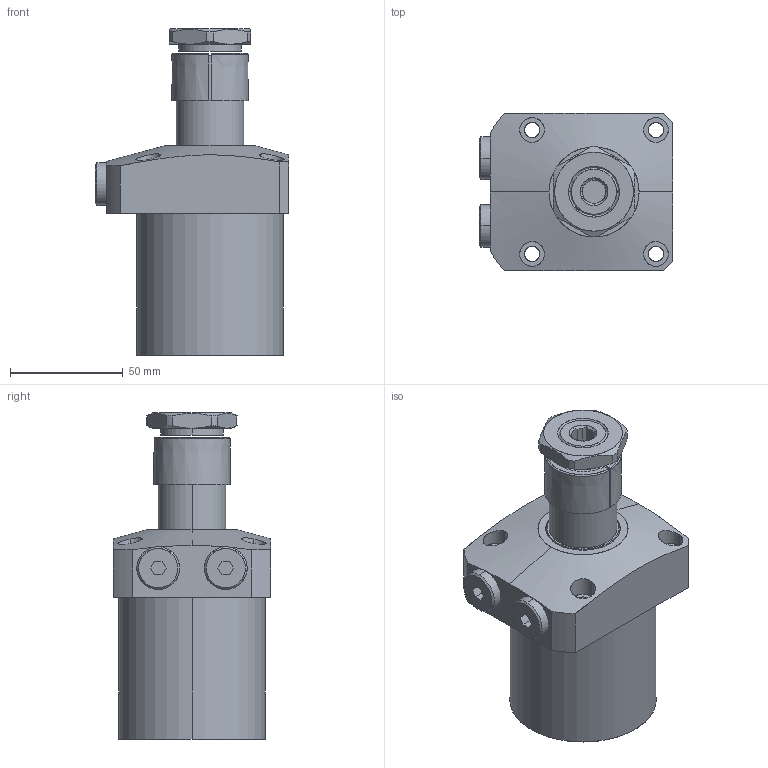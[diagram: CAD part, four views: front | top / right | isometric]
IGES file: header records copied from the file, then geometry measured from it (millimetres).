
Start section: SolidWorks IGES file using analytic representation for surfaces
Global section: file name: D:\abhilash\nijil\cylinder\Clasys1\LV Series\650\0301-0302.IGS; native system: SolidWorks 2010; preprocessor: SolidWorks 2010; author: nidheesh; date: 130730.131337; units: millimetre
Bounding box: 86 x 70 x 145 mm (x, y, z)
Surface area: 45904.8 mm2 (no closed solid volume)
Topology: 0 solids, 0 shells, 163 faces, 3289 edges, 3289 vertices
Faces by surface type: revolution 91, bspline 72
